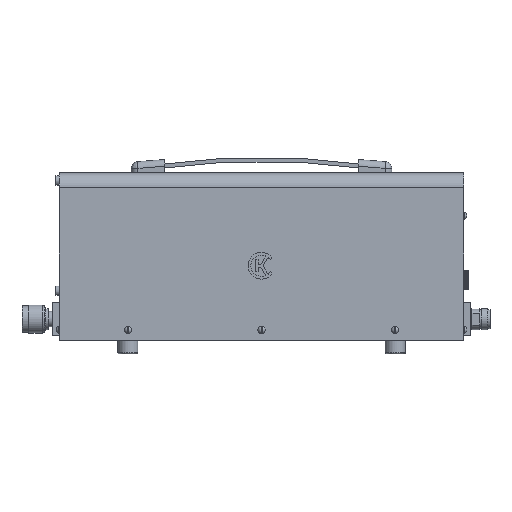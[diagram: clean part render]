
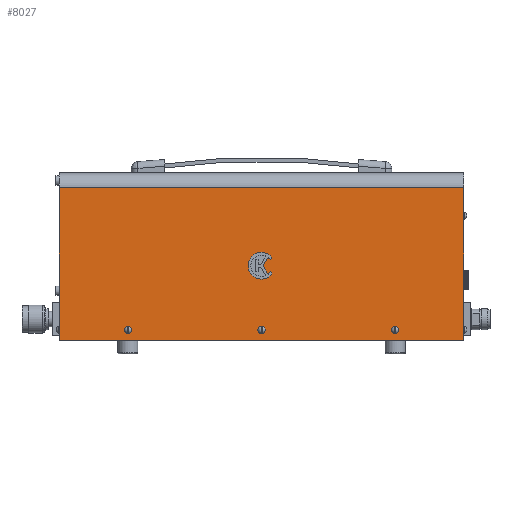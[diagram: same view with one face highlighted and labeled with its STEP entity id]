
A CAD part, left-side view. The second image highlights one B-rep face of the part: STEP entity #8027.
In plain terms, the highlighted planar face has unit normal (-1, 0, 0).
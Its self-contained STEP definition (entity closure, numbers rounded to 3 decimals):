
#8027=ADVANCED_FACE('',(#57417,#57419,#57421,#57423,#57425),#57427,.T.);
#57417=FACE_BOUND('',#57418,.T.);
#57418=EDGE_LOOP('',(#97706,#97707,#97708,#97709));
#57419=FACE_BOUND('',#57420,.T.);
#57420=EDGE_LOOP('',(#97710,#97711,#97712,#97713,#97714,#97715,#97716));
#57421=FACE_BOUND('',#57422,.T.);
#57422=EDGE_LOOP('',(#97717));
#57423=FACE_BOUND('',#57424,.T.);
#57424=EDGE_LOOP('',(#97718));
#57425=FACE_BOUND('',#57426,.T.);
#57426=EDGE_LOOP('',(#97719));
#57427=PLANE('',#57428);
#57428=AXIS2_PLACEMENT_3D('',#57429,#57430,#57431);
#57429=CARTESIAN_POINT('',(-56.,0.,119.836));
#57430=DIRECTION('',(-1.,0.,0.));
#57431=DIRECTION('',(0.,0.,-1.));
#97706=ORIENTED_EDGE('',*,*,#127352,.T.);
#97707=ORIENTED_EDGE('',*,*,#127360,.T.);
#97708=ORIENTED_EDGE('',*,*,#127361,.T.);
#97709=ORIENTED_EDGE('',*,*,#127362,.T.);
#97710=ORIENTED_EDGE('',*,*,#127363,.T.);
#97711=ORIENTED_EDGE('',*,*,#127364,.T.);
#97712=ORIENTED_EDGE('',*,*,#127365,.T.);
#97713=ORIENTED_EDGE('',*,*,#127366,.T.);
#97714=ORIENTED_EDGE('',*,*,#127367,.T.);
#97715=ORIENTED_EDGE('',*,*,#127368,.T.);
#97716=ORIENTED_EDGE('',*,*,#127369,.T.);
#97717=ORIENTED_EDGE('',*,*,#127370,.T.);
#97718=ORIENTED_EDGE('',*,*,#127371,.T.);
#97719=ORIENTED_EDGE('',*,*,#127372,.T.);
#127352=EDGE_CURVE('',#143951,#143952,#143953,.T.);
#127360=EDGE_CURVE('',#143952,#143963,#143964,.T.);
#127361=EDGE_CURVE('',#143963,#143965,#143966,.T.);
#127362=EDGE_CURVE('',#143965,#143951,#143967,.T.);
#127363=EDGE_CURVE('',#143968,#143969,#143970,.F.);
#127364=EDGE_CURVE('',#143969,#143971,#143972,.F.);
#127365=EDGE_CURVE('',#143971,#143973,#143974,.F.);
#127366=EDGE_CURVE('',#143973,#143975,#143976,.F.);
#127367=EDGE_CURVE('',#143975,#143977,#143978,.F.);
#127368=EDGE_CURVE('',#143977,#143979,#143980,.F.);
#127369=EDGE_CURVE('',#143979,#143968,#143981,.F.);
#127370=EDGE_CURVE('',#143982,#143982,#143983,.F.);
#127371=EDGE_CURVE('',#143984,#143984,#143985,.F.);
#127372=EDGE_CURVE('',#143986,#143986,#143987,.F.);
#143951=VERTEX_POINT('',#179530);
#143952=VERTEX_POINT('',#179531);
#143953=LINE('',#179532,#179533);
#143963=VERTEX_POINT('',#179562);
#143964=LINE('',#179563,#179564);
#143965=VERTEX_POINT('',#179566);
#143966=LINE('',#179567,#179568);
#143967=LINE('',#179570,#179571);
#143968=VERTEX_POINT('',#179573);
#143969=VERTEX_POINT('',#179574);
#143970=CIRCLE('',#179575,8.);
#143971=VERTEX_POINT('',#179579);
#143972=LINE('',#179580,#179581);
#143973=VERTEX_POINT('',#179583);
#143974=CIRCLE('',#179584,10.);
#143975=VERTEX_POINT('',#179588);
#143976=LINE('',#179589,#179590);
#143977=VERTEX_POINT('',#179592);
#143978=CIRCLE('',#179593,8.);
#143979=VERTEX_POINT('',#179597);
#143980=LINE('',#179598,#179599);
#143981=LINE('',#179601,#179602);
#143982=VERTEX_POINT('',#179604);
#143983=CIRCLE('',#179605,1.75);
#143984=VERTEX_POINT('',#179609);
#143985=CIRCLE('',#179610,1.75);
#143986=VERTEX_POINT('',#179614);
#143987=CIRCLE('',#179615,1.75);
#179530=CARTESIAN_POINT('',(-56.,-151.5,58.5));
#179531=CARTESIAN_POINT('',(-56.,151.5,58.5));
#179532=CARTESIAN_POINT('',(-56.,-151.5,58.5));
#179533=VECTOR('',#179534,1.);
#179534=DIRECTION('',(0.,1.,0.));
#179562=CARTESIAN_POINT('',(-56.,151.5,-56.));
#179563=CARTESIAN_POINT('',(-56.,151.5,58.5));
#179564=VECTOR('',#179565,1.);
#179565=DIRECTION('',(0.,0.,-1.));
#179566=CARTESIAN_POINT('',(-56.,-151.5,-56.));
#179567=CARTESIAN_POINT('',(-56.,151.5,-56.));
#179568=VECTOR('',#179569,1.);
#179569=DIRECTION('',(0.,-1.,0.));
#179570=CARTESIAN_POINT('',(-56.,-151.5,-56.));
#179571=VECTOR('',#179572,1.);
#179572=DIRECTION('',(0.,0.,1.));
#179573=CARTESIAN_POINT('',(-56.,-4.835,-6.374));
#179574=CARTESIAN_POINT('',(-56.,-6.69,-4.387));
#179575=AXIS2_PLACEMENT_3D('',#179576,#179577,#179578);
#179576=CARTESIAN_POINT('',(-56.,0.,0.));
#179577=DIRECTION('',(1.,0.,0.));
#179578=DIRECTION('',(0.,-0.836,-0.548));
#179579=CARTESIAN_POINT('',(-56.,-7.782,-6.28));
#179580=CARTESIAN_POINT('',(-56.,-7.782,-6.28));
#179581=VECTOR('',#179582,1.);
#179582=DIRECTION('',(0.,0.5,0.866));
#179583=CARTESIAN_POINT('',(-56.,-7.782,6.28));
#179584=AXIS2_PLACEMENT_3D('',#179585,#179586,#179587);
#179585=CARTESIAN_POINT('',(-56.,0.,0.));
#179586=DIRECTION('',(-1.,0.,0.));
#179587=DIRECTION('',(0.,-0.778,0.628));
#179588=CARTESIAN_POINT('',(-56.,-6.69,4.387));
#179589=CARTESIAN_POINT('',(-56.,-6.69,4.387));
#179590=VECTOR('',#179591,1.);
#179591=DIRECTION('',(0.,-0.5,0.866));
#179592=CARTESIAN_POINT('',(-56.,-4.835,6.374));
#179593=AXIS2_PLACEMENT_3D('',#179594,#179595,#179596);
#179594=CARTESIAN_POINT('',(-56.,0.,0.));
#179595=DIRECTION('',(1.,0.,0.));
#179596=DIRECTION('',(0.,-0.604,0.797));
#179597=CARTESIAN_POINT('',(-56.,-1.155,0.));
#179598=CARTESIAN_POINT('',(-56.,-1.155,0.));
#179599=VECTOR('',#179600,1.);
#179600=DIRECTION('',(0.,-0.5,0.866));
#179601=CARTESIAN_POINT('',(-56.,-4.835,-6.374));
#179602=VECTOR('',#179603,1.);
#179603=DIRECTION('',(0.,0.5,0.866));
#179604=CARTESIAN_POINT('',(-56.,-101.75,-48.));
#179605=AXIS2_PLACEMENT_3D('',#179606,#179607,#179608);
#179606=CARTESIAN_POINT('',(-56.,-100.,-48.));
#179607=DIRECTION('',(-1.,0.,0.));
#179608=DIRECTION('',(0.,-1.,0.));
#179609=CARTESIAN_POINT('',(-56.,-1.75,-48.));
#179610=AXIS2_PLACEMENT_3D('',#179611,#179612,#179613);
#179611=CARTESIAN_POINT('',(-56.,0.,-48.));
#179612=DIRECTION('',(-1.,0.,0.));
#179613=DIRECTION('',(0.,-1.,0.));
#179614=CARTESIAN_POINT('',(-56.,98.25,-48.));
#179615=AXIS2_PLACEMENT_3D('',#179616,#179617,#179618);
#179616=CARTESIAN_POINT('',(-56.,100.,-48.));
#179617=DIRECTION('',(-1.,0.,0.));
#179618=DIRECTION('',(0.,-1.,0.));
